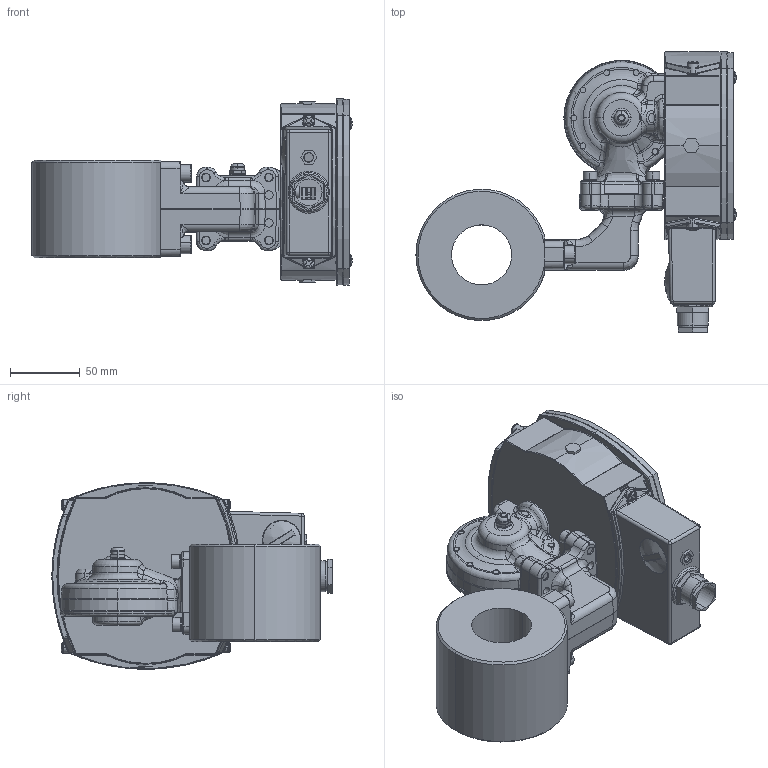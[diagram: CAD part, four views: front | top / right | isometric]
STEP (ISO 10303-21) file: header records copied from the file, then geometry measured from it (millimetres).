
FILE_DESCRIPTION (( 'STEP AP214' ), '1' );
FILE_NAME ('S FA40.STEP', '2016-09-21T07:09:02', ( 'User' ), ( 'HP' ), 'SwSTEP 2.0', 'SolidWorks 2016', '' );
FILE_SCHEMA (( 'AUTOMOTIVE_DESIGN' ));
Length unit declared in the file: millimetre
Products named in the file (35): ID_4_3; S2_25_internal_2_1; ID_3_3; kupolmutter_1; ID_2_4; m_X_E4ssingsmembran_1; ID_1_4; S hus; ID_1_4_8; S FA40; ID_14; ID_13; FA40 anslutningsror; ID_12; fa hals; ID_1_1; ID_2_2; ID_1_4_5; ID_1_2; ID_10; membranhus br; ID_1_4_4; M5 membranskruvar_1; ID_1_4_3; skruv_membranhus_1; ID_1_1_2; fj_X_E4derbricka till membranhus BR_1; ID_9; MC6S M6x22_1; ID_1_4_2; Lock kontrollerad HMAB ELETTA 20160908_1; ID_7_2; ID_6_1; Membranhus kontrollerad HMAB ELETTA 20160908_1; ID_5_2
Assembly tree (54 placements, depth 5):
  S FA40
    S hus
      ID_1_1
        ID_1_4
        ID_2_4
        ID_3_3
        ID_4_3
        ID_5_2
        ID_6_1  x4
        ID_7_2  x4
        ID_1_4_2
        ID_1_1_2
          ID_9  x2
        ID_1_4_3
        ID_1_4_4
        ID_10
        ID_1_4_5
      ID_12  x2
      ID_13
      ID_14
      ID_1_4_8
    membranhus br
      S2_25_internal_2_1
        m_X_E4ssingsmembran_1
        kupolmutter_1
      Membranhus kontrollerad HMAB ELETTA 20160908_1
      Lock kontrollerad HMAB ELETTA 20160908_1
      MC6S M6x22_1  x4
      M5 membranskruvar_1  x9
        fj_X_E4derbricka till membranhus BR_1
        skruv_membranhus_1
    fa hals
      ID_1_2
      ID_2_2  x2
    FA40 anslutningsror
Bounding box: 229 x 200.42 x 133.42 mm (x, y, z)
Volume: 871733.7 mm3; surface area: 289697.6 mm2
Topology: 56 solids, 56 shells, 2414 faces, 5933 edges, 3681 vertices
Faces by surface type: plane 862, cylinder 687, bspline 585, cone 206, torus 67, sphere 7
Entity records: 101024 total; most frequent: CARTESIAN_POINT 58766, ORIENTED_EDGE 9332, DIRECTION 7179, EDGE_CURVE 4666, VERTEX_POINT 2914, AXIS2_PLACEMENT_3D 2677, EDGE_LOOP 2106, FACE_OUTER_BOUND 1891
